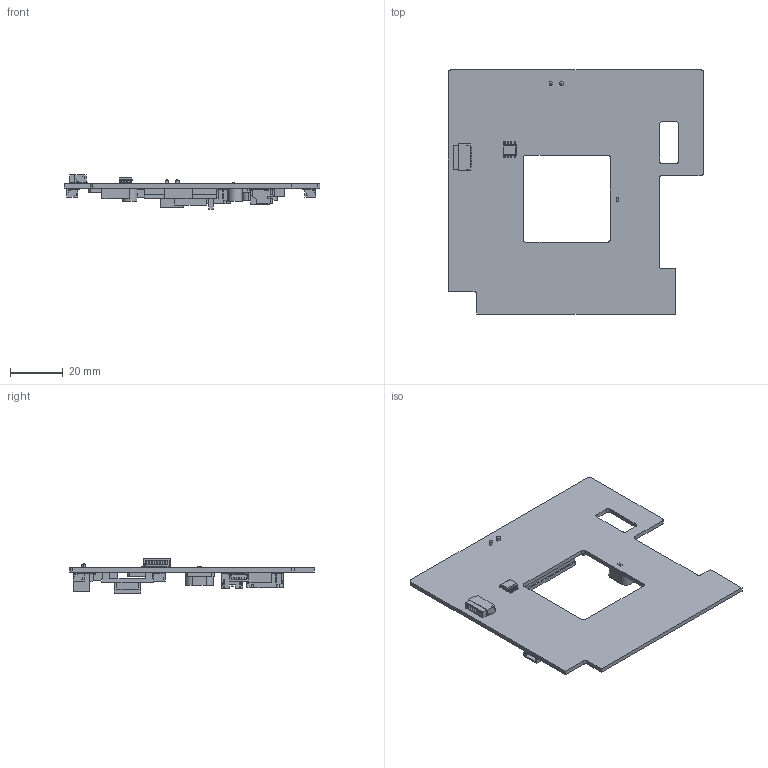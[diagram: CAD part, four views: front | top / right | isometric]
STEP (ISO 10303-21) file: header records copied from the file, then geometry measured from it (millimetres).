
FILE_DESCRIPTION((''),'2;1');
FILE_NAME('A_BOARD_ASM_ASM','2020-03-13T',('g0715'),(''),'PRO/ENGINEER BY PARAMETRIC TECHNOLOGY CORPORATION, 2014090','PRO/ENGINEER BY PARAMETRIC TECHNOLOGY CORPORATION, 2014090','');
FILE_SCHEMA(('CONFIG_CONTROL_DESIGN'));
Length unit declared in the file: millimetre
Products named in the file (18): A_BOARD_NEXUS; ATK109; PIC16F877; 10MHZ; HMC2003; FX614; SM04B-SRSS-TB; SM02B-SRSS-TB; S6B-PH-SM4; S5B-PH-SM4; SM05B-SRSS; SM08B-SRSS-TB; 3579545MHZ; SDN2; 560OHM; MAX662AESA; SHR-08V-S; A_BOARD_ASM_ASM
Assembly tree (22 placements, depth 2):
  A_BOARD_ASM_ASM
    A_BOARD_NEXUS
    ATK109  x2
    PIC16F877  x2
    10MHZ  x2
    HMC2003
    FX614
    SM04B-SRSS-TB
    SM02B-SRSS-TB
    S6B-PH-SM4
    S5B-PH-SM4
    SM05B-SRSS  x3
    SM08B-SRSS-TB
    3579545MHZ
    SDN2
    560OHM
    MAX662AESA
    SHR-08V-S
Bounding box: 96.8 x 92.5 x 13 mm (x, y, z)
Volume: 16209 mm3; surface area: 22069.7 mm2
Topology: 22 solids, 22 shells, 1427 faces, 3734 edges, 2412 vertices
Faces by surface type: plane 1133, cylinder 168, bspline 48, sphere 34, extrusion 24, revolution 16, cone 4
Entity records: 40516 total; most frequent: CARTESIAN_POINT 10901, ORIENTED_EDGE 6278, DIRECTION 5601, EDGE_CURVE 3139, VECTOR 2637, LINE 2613, VERTEX_POINT 2022, AXIS2_PLACEMENT_3D 1474
